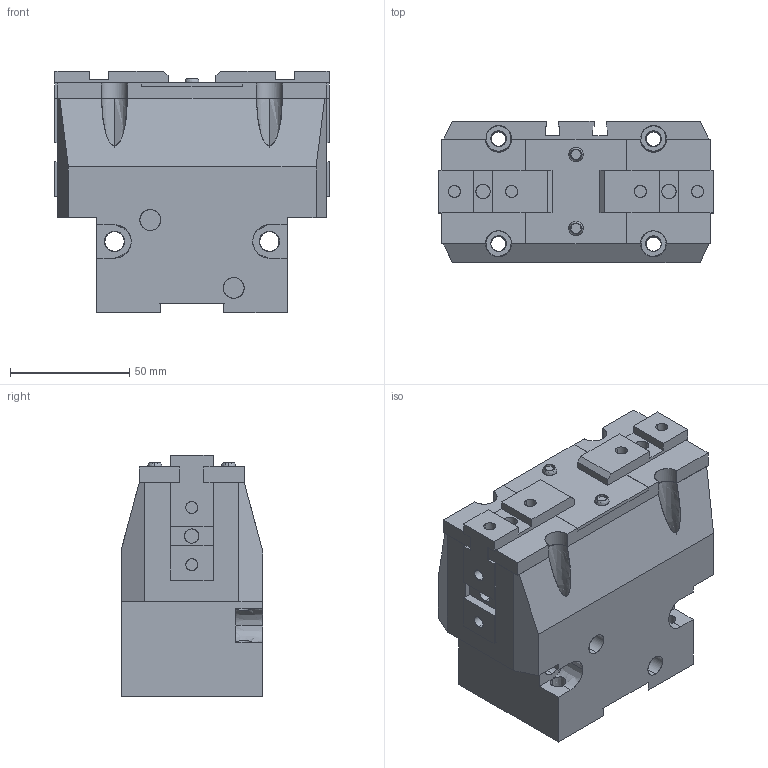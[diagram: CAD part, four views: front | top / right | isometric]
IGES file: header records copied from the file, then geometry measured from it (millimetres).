
Global section: file name: C:\Documents and Settings\Administrateur\Mes documents\OPE-115-S-CLOSED.igs; native system: AutoCAD-16.0s (LMS Tech) (Microsoft Windows NT Version 5.1 (x86)); preprocessor: Autodesk IGES Translator Mechanical Desktop.R7.0.43.0 (Mar 18 2003) from Autodesk, Inc.; date: 20050629.122249; units: millimetre
Bounding box: 115 x 59.2 x 101.5 mm (x, y, z)
Surface area: 94769 mm2 (no closed solid volume)
Topology: 0 solids, 0 shells, 269 faces, 2677 edges, 2758 vertices
Faces by surface type: bspline 269
